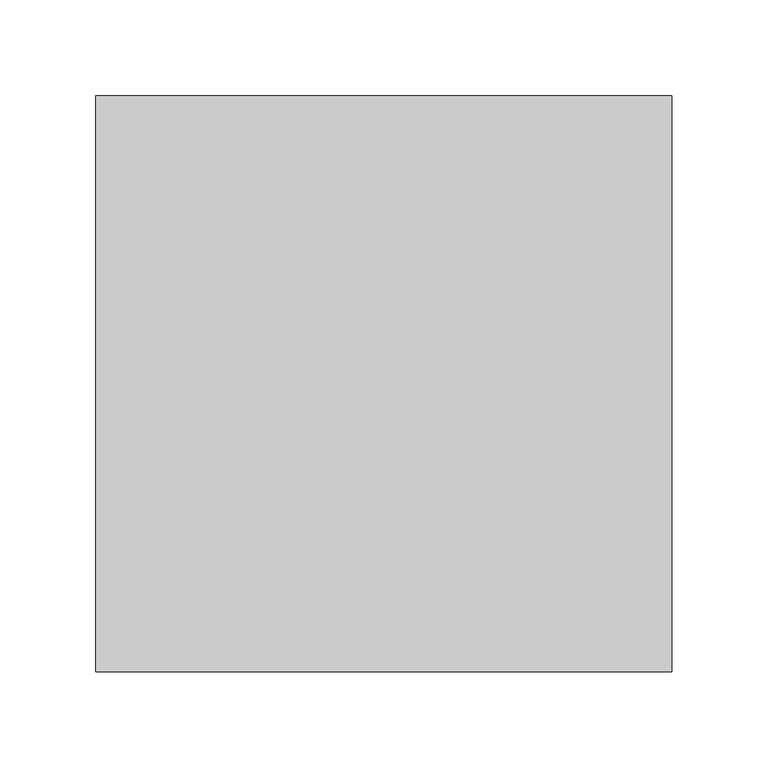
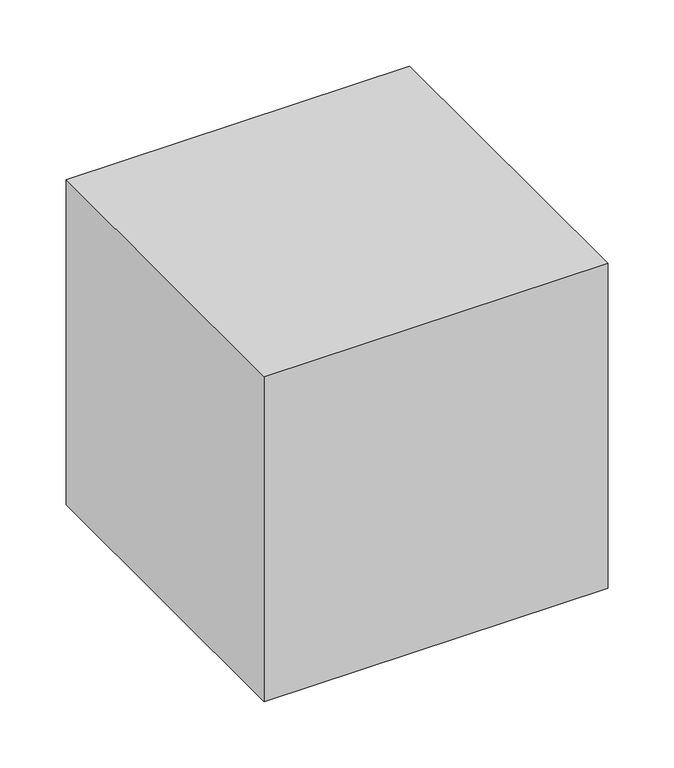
"""IFC4 building model written with IfcOpenShell, lengths in millimetres: proxy geometry, 制気口ボックス : 制気口ボックス."""

from ifc_helpers import new_model, si_unit, frame, origin, place, context, project, spatial, polyline, outline, extrude, source, transform, mapped, element, save


def mechanical_equipment_89a21000(model_context):
    return source(origin(), model_context, "Body", "SweptSolid", [
        extrude(outline(polyline([(150.0, 150.0), (150.0, -150.0), (-150.0, -150.0), (-150.0, 150.0), (150.0, 150.0)])), frame((0.0, 0.0, -150.0), z_axis=(0.0, 0.0, 1.0), x_axis=(1.0, 0.0, 0.0)), (0.0, 0.0, 1.0), 300.0),
    ])


if __name__ == "__main__":
    model = new_model("IFC4")
    model_context = context("Model", 3, world=origin())
    ifc_project = project(units=[si_unit("LENGTHUNIT", "METRE", prefix="MILLI")], contexts=[model_context])
    site = spatial("IfcSite", under=ifc_project)
    building = spatial("IfcBuilding", under=site)
    placement = place(None, origin())
    mechanical_equipment_shape = mechanical_equipment_89a21000(model_context)
    element("IfcBuildingElementProxy", 1, Name="制気口ボックス : 制気口ボックス", ObjectType="制気口ボックス : 制気口ボックス", at=placement, inside=building, context=model_context, shape_type="MappedRepresentation", body=[
        mapped(mechanical_equipment_shape, transform((0.0, 0.0, 0.0), x_axis=(1.0, 0.0, 0.0), y_axis=(0.0, 1.0, 0.0), z_axis=(0.0, 0.0, 1.0))),
    ])
    save(model, "model.ifc")
